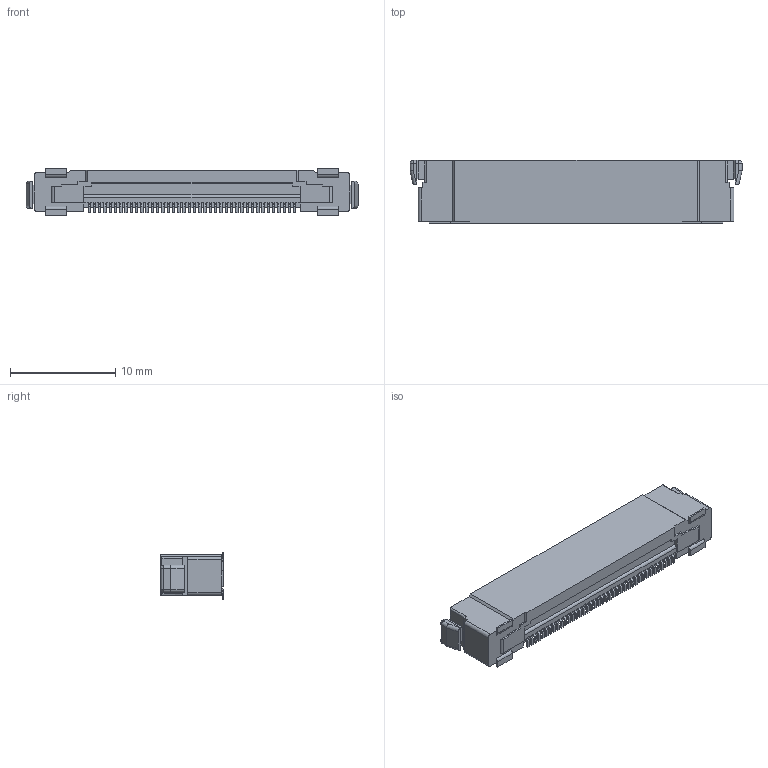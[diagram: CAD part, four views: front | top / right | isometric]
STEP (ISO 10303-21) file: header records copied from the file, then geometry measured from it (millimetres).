
FILE_DESCRIPTION (( 'STEP AP203' ), '1' );
FILE_NAME ('20539-040ExxxC ASSY STEP R5 ALL.STEP', '2012-10-19T06:32:48', ( 'kaihatsu-3dcad-4' ), ( '' ), 'SwSTEP 2.0', 'SolidWorks 2011', '' );
FILE_SCHEMA (( 'CONFIG_CONTROL_DESIGN' ));
Length unit declared in the file: millimetre
Products named in the file (1): 20539-040ExxxC ASSY STEP R5 ALL
Bounding box: 31.5 x 6 x 4.5 mm (x, y, z)
Volume: 614.3 mm3; surface area: 725.3 mm2
Topology: 1 solids, 1 shells, 631 faces, 1840 edges, 1214 vertices
Faces by surface type: plane 430, cylinder 197, bspline 4
Entity records: 20849 total; most frequent: CARTESIAN_POINT 3778, ORIENTED_EDGE 3672, DIRECTION 3458, EDGE_CURVE 1836, LINE 1446, VECTOR 1446, VERTEX_POINT 1214, AXIS2_PLACEMENT_3D 1006
